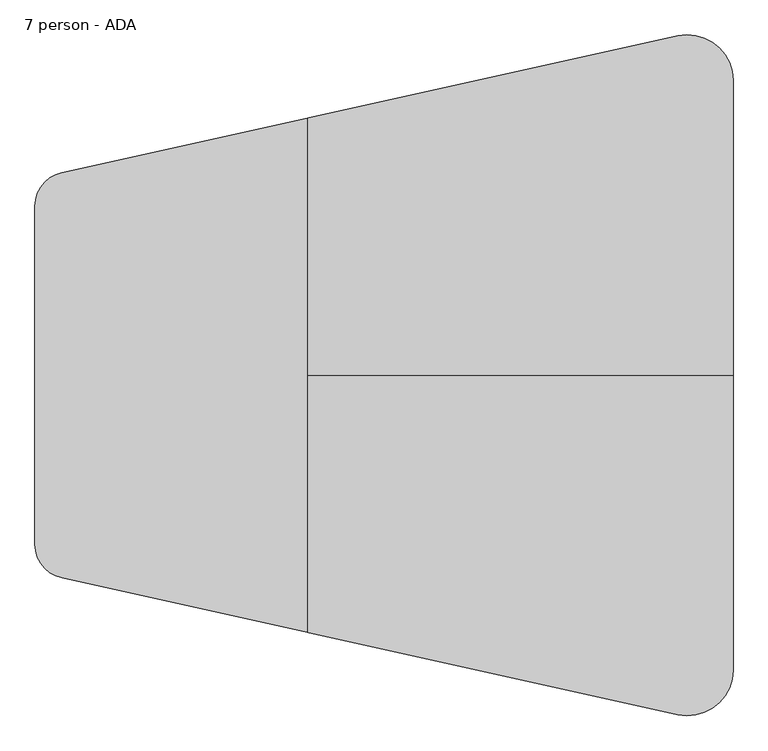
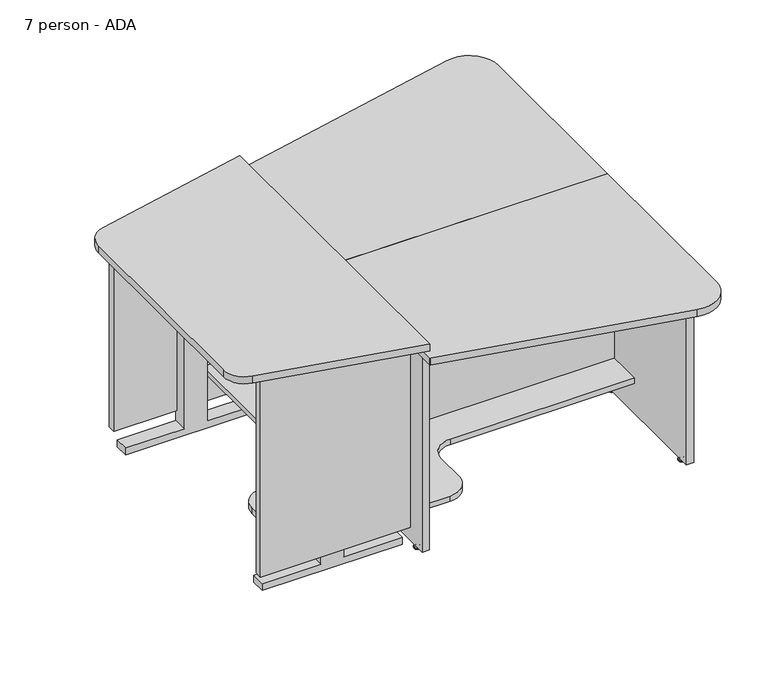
"""IFC4 building model written with IfcOpenShell, lengths in millimetres: furniture geometry, Nova Solutions - Collaboration Table - Keystone_6-7 person : 7 person - ADA."""

from ifc_helpers import new_model, si_unit, point, frame, frame_2d, origin, place, context, project, spatial, polyline, circle_curve, ellipse_curve, trimmed, segment, composite_curve, outline, extrude, source, transform, mapped, element, save
from ifc_brep_helpers import plane_surface, cylinder_surface, revolved_surface, advanced_brep


def furniture_7_person_ada_e78bc548(model_context):
    return source(origin(), model_context, "Body", "SolidModel", [
        extrude(outline(polyline([(0.0, -1436.288), (25.4, -1436.288), (25.4, -1640.238), (671.5176566, -1640.238), (671.5176566, -1720.238), (25.4, -1720.238), (25.4, -1924.188), (0.0, -1924.188), (0.0, -1436.288)])), frame((0.0, 385.9, 0.0), z_axis=(0.0, 1.0, 0.0), x_axis=(0.0, 0.0, 1.0)), (0.0, 0.0, 1.0), 50.8),
        extrude(outline(polyline([(0.0, -1436.288), (25.4, -1436.288), (25.4, -1640.238), (671.5176566, -1640.238), (671.5176566, -1720.238), (25.4, -1720.238), (25.4, -1924.188), (0.0, -1924.188), (0.0, -1436.288)])), frame((0.0, -436.7, 0.0), z_axis=(0.0, 1.0, 0.0), x_axis=(0.0, 0.0, 1.0)), (0.0, 0.0, 1.0), 50.8),
        extrude(outline(polyline([(430.1, 787.1), (430.1, 196.3), (-259.1, 196.3), (-259.1, 558.2), (-430.1, 558.2), (-430.1, 787.1), (430.1, 787.1)])), frame((-1506.438, 0.0, 0.0), z_axis=(1.0, 0.0, 0.0), x_axis=(0.0, 1.0, 0.0)), (0.0, 0.0, 1.0), 19.2),
        extrude(outline(composite_curve([segment(polyline([(-1431.938, 430.1), (-1431.938, -430.1), (-1875.1005, -430.1), (-1875.1005, -290.3)]), True, "CONTINUOUS"), segment(trimmed(circle_curve(frame_2d((-1798.9005, -290.3)), 76.2), [point((-1875.1005, -290.3))], [point((-1798.9005, -214.1))], False, "CARTESIAN"), True, "CONTINUOUS"), segment(polyline([(-1798.9005, -214.1), (-1704.438, -214.1)]), True, "CONTINUOUS"), segment(trimmed(circle_curve(frame_2d((-1704.438, -137.9)), 76.2), [point((-1704.438, -214.1))], [point((-1628.238, -137.9))], True, "CARTESIAN"), True, "CONTINUOUS"), segment(polyline([(-1628.238, -137.9), (-1628.238, 430.1), (-1431.938, 430.1)]), True, "CONTINUOUS")], self_intersect=False)), frame((0.0, 0.0, 177.1), z_axis=(0.0, 0.0, 1.0), x_axis=(1.0, 0.0, 0.0)), (0.0, 0.0, 1.0), 19.2),
        extrude(outline(polyline([(-1419.238, 455.8), (-1419.238, 430.1), (-1941.238, 430.1), (-1941.238, 455.8), (-1419.238, 455.8)])), frame((0.0, 0.0, 66.4), z_axis=(0.0, 0.0, 1.0), x_axis=(1.0, 0.0, 0.0)), (0.0, 0.0, 1.0), 720.7),
        extrude(outline(polyline([(-1419.238, -455.8), (-1941.238, -455.8), (-1941.238, -430.1), (-1419.238, -430.1), (-1419.238, -455.8)])), frame((0.0, 0.0, 66.4), z_axis=(0.0, 0.0, 1.0), x_axis=(1.0, 0.0, 0.0)), (0.0, 0.0, 1.0), 720.7),
        extrude(outline(composite_curve([segment(polyline([(-1419.238, 572.7129765), (-1419.238, -572.687814), (-1965.3405031, -451.5115625)]), True, "CONTINUOUS"), segment(trimmed(circle_curve(frame_2d((-1948.6604516, -376.3399197)), 77.0), [point((-1965.3405031, -451.5115625))], [point((-2025.6604516, -376.3415173))], False, "CARTESIAN"), True, "CONTINUOUS"), segment(polyline([(-2025.6604516, -376.3415173), (-2025.6760684, 376.3600213)]), True, "CONTINUOUS"), segment(trimmed(circle_curve(frame_2d((-1948.6760685, 376.3616189)), 77.0), [point((-2025.6760684, 376.3600213))], [point((-1965.3561197, 451.5332617))], False, "CARTESIAN"), True, "CONTINUOUS"), segment(polyline([(-1965.3561197, 451.5332617), (-1419.238, 572.7129765)]), True, "CONTINUOUS")], self_intersect=False)), frame((0.0, 0.0, 787.1), z_axis=(0.0, 0.0, 1.0), x_axis=(1.0, 0.0, 0.0)), (0.0, 0.0, 1.0), 25.7),
        extrude(outline(polyline([(736.3, -497.838), (736.3, -1392.138), (507.4, -1392.138), (507.4, -1221.138), (145.5, -1221.138), (145.5, -497.838), (736.3, -497.838)])), frame((0.0, 69.345, 0.0), z_axis=(0.0, 1.0, 0.0), x_axis=(0.0, 0.0, 1.0)), (0.0, 0.0, 1.0), 19.2),
        extrude(outline(composite_curve([segment(polyline([(-1392.138, 469.9075), (-1290.538, 469.9075)]), True, "CONTINUOUS"), segment(trimmed(circle_curve(frame_2d((-1290.538, 393.7075)), 76.2), [point((-1290.538, 469.9075))], [point((-1214.338, 393.7075))], False, "CARTESIAN"), True, "CONTINUOUS"), segment(polyline([(-1214.338, 393.7075), (-1214.338, 286.545)]), True, "CONTINUOUS"), segment(trimmed(circle_curve(frame_2d((-1138.138, 286.545)), 76.2), [point((-1214.338, 286.545))], [point((-1138.138, 210.345))], True, "CARTESIAN"), True, "CONTINUOUS"), segment(polyline([(-1138.138, 210.345), (-497.838, 210.345), (-497.838, 14.045), (-1392.138, 14.045), (-1392.138, 469.9075)]), True, "CONTINUOUS")], self_intersect=False)), frame((0.0, 0.0, 126.3), z_axis=(0.0, 0.0, 1.0), x_axis=(1.0, 0.0, 0.0)), (0.0, 0.0, 1.0), 19.2),
        advanced_brep(
        [(-1411.6656506, 474.3309375, 11.1125), (-1398.3103494, 474.3309375, 11.1125), (-1404.988, 474.3309375, 11.1125), (-1411.6656506, 474.3309375, 9.525), (-1398.3103494, 474.3309375, 9.525), (-1416.8735135, 474.3309375, 4.7748687), (-1393.1024865, 474.3309375, 4.7748687), (-1417.7346506, 474.3309375, 3.989419), (-1392.2413494, 474.3309375, 3.989419), (-1417.7346506, 474.3309375, 3.175), (-1392.2413494, 474.3309375, 3.175), (-1416.8839119, 474.3309375, 0.0), (-1393.0920881, 474.3309375, 0.0), (-1404.988, 474.3309375, 0.0)],
        [
            (0, 1, circle_curve(frame((-1404.988, 474.3309375, 11.1125), z_axis=(0.0, 0.0, 1.0), x_axis=(1.0, 0.0, 0.0)), 6.6776506)),
            (1, 2),
            (2, 0),
            (1, 0, circle_curve(frame((-1404.988, 474.3309375, 11.1125), z_axis=(0.0, 0.0, 1.0), x_axis=(1.0, 0.0, 0.0)), 6.6776506)),
            (3, 4, circle_curve(frame((-1404.988, 474.3309375, 9.525), z_axis=(0.0, 0.0, 1.0), x_axis=(1.0, 0.0, 0.0)), 6.6776506)),
            (4, 1),
            (0, 3),
            (4, 3, circle_curve(frame((-1404.988, 474.3309375, 9.525), z_axis=(0.0, 0.0, 1.0), x_axis=(1.0, 0.0, 0.0)), 6.6776506)),
            (5, 6, circle_curve(frame((-1404.988, 474.3309375, 4.7748687), z_axis=(0.0, 0.0, 1.0), x_axis=(1.0, 0.0, 0.0)), 11.8855135)),
            (6, 4, circle_curve(frame((-1392.0559373, 474.3309375, 11.1521822), z_axis=(0.0, 1.0, 0.0), x_axis=(-1.0, 0.0, 0.0)), 6.462615)),
            (3, 5, circle_curve(frame((-1417.9200627, 474.3309375, 11.1521822), z_axis=(0.0, 1.0, 0.0), x_axis=(1.0, 0.0, 0.0)), 6.462615)),
            (6, 5, circle_curve(frame((-1404.988, 474.3309375, 4.7748687), z_axis=(0.0, 0.0, 1.0), x_axis=(1.0, 0.0, 0.0)), 11.8855135)),
            (7, 8, circle_curve(frame((-1404.988, 474.3309375, 3.989419), z_axis=(0.0, 0.0, 1.0), x_axis=(1.0, 0.0, 0.0)), 12.7466506)),
            (8, 6, circle_curve(frame((-1393.2755368, 474.3309375, 3.7203591), z_axis=(0.0, -1.0, 0.0), x_axis=(-1.0, 0.0, 0.0)), 1.0686145)),
            (5, 7, circle_curve(frame((-1416.7004632, 474.3309375, 3.7203591), z_axis=(0.0, -1.0, 0.0), x_axis=(1.0, 0.0, 0.0)), 1.0686145)),
            (8, 7, circle_curve(frame((-1404.988, 474.3309375, 3.989419), z_axis=(0.0, 0.0, 1.0), x_axis=(1.0, 0.0, 0.0)), 12.7466506)),
            (9, 10, circle_curve(frame((-1404.988, 474.3309375, 3.175), z_axis=(0.0, 0.0, 1.0), x_axis=(1.0, 0.0, 0.0)), 12.7466506)),
            (10, 8),
            (7, 9),
            (10, 9, circle_curve(frame((-1404.988, 474.3309375, 3.175), z_axis=(0.0, 0.0, 1.0), x_axis=(1.0, 0.0, 0.0)), 12.7466506)),
            (11, 12, circle_curve(frame((-1404.988, 474.3309375, 0.0), z_axis=(0.0, 0.0, 1.0), x_axis=(1.0, 0.0, 0.0)), 11.8959119)),
            (12, 10),
            (9, 11),
            (12, 11, circle_curve(frame((-1404.988, 474.3309375, 0.0), z_axis=(0.0, 0.0, 1.0), x_axis=(1.0, 0.0, 0.0)), 11.8959119)),
            (13, 12),
            (11, 13),
        ],
        [
            plane_surface(frame((-1404.988, 474.3309375, 11.1125), z_axis=(0.0, 0.0, 1.0), x_axis=(1.0, 0.0, 0.0))),
            cylinder_surface(frame((-1404.988, 474.3309375, 43.2095994), z_axis=(0.0, 0.0, -1.0), x_axis=(1.0, 0.0, 0.0)), 6.6776506),
            revolved_surface(trimmed(ellipse_curve(frame((-1392.0559373, 474.3309375, 11.1521822), z_axis=(0.0, -1.0, 0.0), x_axis=(-1.0, 0.0, 0.0)), 6.462615, 6.462615), [point((-1398.3103494, 474.3309375, 9.525))], [point((-1393.1024865, 474.3309375, 4.7748687))], True, "CARTESIAN"), (-1404.988, 474.3309375, 43.2095994), (0.0, 0.0, -1.0)),
            revolved_surface(trimmed(ellipse_curve(frame((-1393.2755368, 474.3309375, 3.7203591), z_axis=(0.0, 1.0, 0.0), x_axis=(-1.0, 0.0, 0.0)), 1.0686145, 1.0686145), [point((-1393.1024865, 474.3309375, 4.7748687))], [point((-1392.2413494, 474.3309375, 3.989419))], True, "CARTESIAN"), (-1404.988, 474.3309375, 43.2095994), (0.0, 0.0, -1.0)),
            cylinder_surface(frame((-1404.988, 474.3309375, 43.2095994), z_axis=(0.0, 0.0, -1.0), x_axis=(1.0, 0.0, 0.0)), 12.7466506),
            revolved_surface(polyline([(-1392.2413494, 474.3309375, 3.175), (-1393.0920881, 474.3309375, 0.0)]), (-1404.988, 474.3309375, 43.2095994), (0.0, 0.0, -1.0)),
            plane_surface(frame((-1404.988, 474.3309375, 0.0), z_axis=(0.0, 0.0, -1.0), x_axis=(1.0, 0.0, 0.0))),
        ],
        [
            (0, [[1, 2, 3]]),
            (0, [[4, -3, -2]]),
            (1, [[5, 6, -1, 7]]),
            (1, [[8, -7, -4, -6]]),
            (2, [[9, 10, -5, 11]]),
            (2, [[12, -11, -8, -10]]),
            (3, [[13, 14, -9, 15]]),
            (3, [[16, -15, -12, -14]]),
            (4, [[17, 18, -13, 19]]),
            (4, [[20, -19, -16, -18]]),
            (5, [[21, 22, -17, 23]]),
            (5, [[24, -23, -20, -22]]),
            (6, [[25, -21, 26]]),
            (6, [[-26, -24, -25]]),
        ],
    ),
        advanced_brep(
        [(-1411.6656506, 50.3590625, 11.1125), (-1398.3103494, 50.3590625, 11.1125), (-1404.988, 50.3590625, 11.1125), (-1411.6656506, 50.3590625, 9.525), (-1398.3103494, 50.3590625, 9.525), (-1416.8735135, 50.3590625, 4.7748687), (-1393.1024865, 50.3590625, 4.7748687), (-1417.7346506, 50.3590625, 3.989419), (-1392.2413494, 50.3590625, 3.989419), (-1417.7346506, 50.3590625, 3.175), (-1392.2413494, 50.3590625, 3.175), (-1416.8839119, 50.3590625, 0.0), (-1393.0920881, 50.3590625, 0.0), (-1404.988, 50.3590625, 0.0)],
        [
            (0, 1, circle_curve(frame((-1404.988, 50.3590625, 11.1125), z_axis=(0.0, 0.0, 1.0), x_axis=(1.0, 0.0, 0.0)), 6.6776506)),
            (1, 2),
            (2, 0),
            (1, 0, circle_curve(frame((-1404.988, 50.3590625, 11.1125), z_axis=(0.0, 0.0, 1.0), x_axis=(1.0, 0.0, 0.0)), 6.6776506)),
            (3, 4, circle_curve(frame((-1404.988, 50.3590625, 9.525), z_axis=(0.0, 0.0, 1.0), x_axis=(1.0, 0.0, 0.0)), 6.6776506)),
            (4, 1),
            (0, 3),
            (4, 3, circle_curve(frame((-1404.988, 50.3590625, 9.525), z_axis=(0.0, 0.0, 1.0), x_axis=(1.0, 0.0, 0.0)), 6.6776506)),
            (5, 6, circle_curve(frame((-1404.988, 50.3590625, 4.7748687), z_axis=(0.0, 0.0, 1.0), x_axis=(1.0, 0.0, 0.0)), 11.8855135)),
            (6, 4, circle_curve(frame((-1392.0559373, 50.3590625, 11.1521822), z_axis=(0.0, 1.0, 0.0), x_axis=(-1.0, 0.0, 0.0)), 6.462615)),
            (3, 5, circle_curve(frame((-1417.9200627, 50.3590625, 11.1521822), z_axis=(0.0, 1.0, 0.0), x_axis=(1.0, 0.0, 0.0)), 6.462615)),
            (6, 5, circle_curve(frame((-1404.988, 50.3590625, 4.7748687), z_axis=(0.0, 0.0, 1.0), x_axis=(1.0, 0.0, 0.0)), 11.8855135)),
            (7, 8, circle_curve(frame((-1404.988, 50.3590625, 3.989419), z_axis=(0.0, 0.0, 1.0), x_axis=(1.0, 0.0, 0.0)), 12.7466506)),
            (8, 6, circle_curve(frame((-1393.2755368, 50.3590625, 3.7203591), z_axis=(0.0, -1.0, 0.0), x_axis=(-1.0, 0.0, 0.0)), 1.0686145)),
            (5, 7, circle_curve(frame((-1416.7004632, 50.3590625, 3.7203591), z_axis=(0.0, -1.0, 0.0), x_axis=(1.0, 0.0, 0.0)), 1.0686145)),
            (8, 7, circle_curve(frame((-1404.988, 50.3590625, 3.989419), z_axis=(0.0, 0.0, 1.0), x_axis=(1.0, 0.0, 0.0)), 12.7466506)),
            (9, 10, circle_curve(frame((-1404.988, 50.3590625, 3.175), z_axis=(0.0, 0.0, 1.0), x_axis=(1.0, 0.0, 0.0)), 12.7466506)),
            (10, 8),
            (7, 9),
            (10, 9, circle_curve(frame((-1404.988, 50.3590625, 3.175), z_axis=(0.0, 0.0, 1.0), x_axis=(1.0, 0.0, 0.0)), 12.7466506)),
            (11, 12, circle_curve(frame((-1404.988, 50.3590625, 0.0), z_axis=(0.0, 0.0, 1.0), x_axis=(1.0, 0.0, 0.0)), 11.8959119)),
            (12, 10),
            (9, 11),
            (12, 11, circle_curve(frame((-1404.988, 50.3590625, 0.0), z_axis=(0.0, 0.0, 1.0), x_axis=(1.0, 0.0, 0.0)), 11.8959119)),
            (13, 12),
            (11, 13),
        ],
        [
            plane_surface(frame((-1404.988, 50.3590625, 11.1125), z_axis=(0.0, 0.0, 1.0), x_axis=(1.0, 0.0, 0.0))),
            cylinder_surface(frame((-1404.988, 50.3590625, 43.2095994), z_axis=(0.0, 0.0, -1.0), x_axis=(1.0, 0.0, 0.0)), 6.6776506),
            revolved_surface(trimmed(ellipse_curve(frame((-1392.0559373, 50.3590625, 11.1521822), z_axis=(0.0, -1.0, 0.0), x_axis=(-1.0, 0.0, 0.0)), 6.462615, 6.462615), [point((-1398.3103494, 50.3590625, 9.525))], [point((-1393.1024865, 50.3590625, 4.7748687))], True, "CARTESIAN"), (-1404.988, 50.3590625, 43.2095994), (0.0, 0.0, -1.0)),
            revolved_surface(trimmed(ellipse_curve(frame((-1393.2755368, 50.3590625, 3.7203591), z_axis=(0.0, 1.0, 0.0), x_axis=(-1.0, 0.0, 0.0)), 1.0686145, 1.0686145), [point((-1393.1024865, 50.3590625, 4.7748687))], [point((-1392.2413494, 50.3590625, 3.989419))], True, "CARTESIAN"), (-1404.988, 50.3590625, 43.2095994), (0.0, 0.0, -1.0)),
            cylinder_surface(frame((-1404.988, 50.3590625, 43.2095994), z_axis=(0.0, 0.0, -1.0), x_axis=(1.0, 0.0, 0.0)), 12.7466506),
            revolved_surface(polyline([(-1392.2413494, 50.3590625, 3.175), (-1393.0920881, 50.3590625, 0.0)]), (-1404.988, 50.3590625, 43.2095994), (0.0, 0.0, -1.0)),
            plane_surface(frame((-1404.988, 50.3590625, 0.0), z_axis=(0.0, 0.0, -1.0), x_axis=(1.0, 0.0, 0.0))),
        ],
        [
            (0, [[1, 2, 3]]),
            (0, [[4, -3, -2]]),
            (1, [[5, 6, -1, 7]]),
            (1, [[8, -7, -4, -6]]),
            (2, [[9, 10, -5, 11]]),
            (2, [[12, -11, -8, -10]]),
            (3, [[13, 14, -9, 15]]),
            (3, [[16, -15, -12, -14]]),
            (4, [[17, 18, -13, 19]]),
            (4, [[20, -19, -16, -18]]),
            (5, [[21, 22, -17, 23]]),
            (5, [[24, -23, -20, -22]]),
            (6, [[25, -21, 26]]),
            (6, [[-26, -24, -25]]),
        ],
    ),
        extrude(outline(polyline([(-1417.838, 1.345), (-1417.838, 523.345), (-1392.138, 523.345), (-1392.138, 1.345), (-1417.838, 1.345)])), frame((0.0, 0.0, 15.6), z_axis=(0.0, 0.0, 1.0), x_axis=(1.0, 0.0, 0.0)), (0.0, 0.0, 1.0), 720.7),
        advanced_brep(
        [(-478.3103494, 474.3309375, 11.1125), (-484.988, 474.3309375, 11.1125), (-491.6656506, 474.3309375, 11.1125), (-478.3103494, 474.3309375, 9.525), (-491.6656506, 474.3309375, 9.525), (-473.1024865, 474.3309375, 4.7748687), (-496.8735135, 474.3309375, 4.7748687), (-472.2413494, 474.3309375, 3.989419), (-497.7346506, 474.3309375, 3.989419), (-472.2413494, 474.3309375, 3.175), (-497.7346506, 474.3309375, 3.175), (-473.0920881, 474.3309375, 0.0), (-496.8839119, 474.3309375, 0.0), (-484.988, 474.3309375, 0.0)],
        [
            (0, 1),
            (1, 2),
            (2, 0, circle_curve(frame((-484.988, 474.3309375, 11.1125), z_axis=(0.0, 0.0, 1.0), x_axis=(-1.0, 0.0, 0.0)), 6.6776506)),
            (0, 2, circle_curve(frame((-484.988, 474.3309375, 11.1125), z_axis=(0.0, 0.0, 1.0), x_axis=(-1.0, 0.0, 0.0)), 6.6776506)),
            (3, 0),
            (2, 4),
            (4, 3, circle_curve(frame((-484.988, 474.3309375, 9.525), z_axis=(0.0, 0.0, 1.0), x_axis=(-1.0, 0.0, 0.0)), 6.6776506)),
            (3, 4, circle_curve(frame((-484.988, 474.3309375, 9.525), z_axis=(0.0, 0.0, 1.0), x_axis=(-1.0, 0.0, 0.0)), 6.6776506)),
            (5, 3, circle_curve(frame((-472.0559373, 474.3309375, 11.1521822), z_axis=(0.0, 1.0, 0.0), x_axis=(-1.0, 0.0, 0.0)), 6.462615)),
            (4, 6, circle_curve(frame((-497.9200627, 474.3309375, 11.1521822), z_axis=(0.0, 1.0, 0.0), x_axis=(1.0, 0.0, 0.0)), 6.462615)),
            (6, 5, circle_curve(frame((-484.988, 474.3309375, 4.7748687), z_axis=(0.0, 0.0, 1.0), x_axis=(-1.0, 0.0, 0.0)), 11.8855135)),
            (5, 6, circle_curve(frame((-484.988, 474.3309375, 4.7748687), z_axis=(0.0, 0.0, 1.0), x_axis=(-1.0, 0.0, 0.0)), 11.8855135)),
            (7, 5, circle_curve(frame((-473.2755368, 474.3309375, 3.7203591), z_axis=(0.0, -1.0, 0.0), x_axis=(-1.0, 0.0, 0.0)), 1.0686145)),
            (6, 8, circle_curve(frame((-496.7004632, 474.3309375, 3.7203591), z_axis=(0.0, -1.0, 0.0), x_axis=(1.0, 0.0, 0.0)), 1.0686145)),
            (8, 7, circle_curve(frame((-484.988, 474.3309375, 3.989419), z_axis=(0.0, 0.0, 1.0), x_axis=(-1.0, 0.0, 0.0)), 12.7466506)),
            (7, 8, circle_curve(frame((-484.988, 474.3309375, 3.989419), z_axis=(0.0, 0.0, 1.0), x_axis=(-1.0, 0.0, 0.0)), 12.7466506)),
            (9, 7),
            (8, 10),
            (10, 9, circle_curve(frame((-484.988, 474.3309375, 3.175), z_axis=(0.0, 0.0, 1.0), x_axis=(-1.0, 0.0, 0.0)), 12.7466506)),
            (9, 10, circle_curve(frame((-484.988, 474.3309375, 3.175), z_axis=(0.0, 0.0, 1.0), x_axis=(-1.0, 0.0, 0.0)), 12.7466506)),
            (11, 9),
            (10, 12),
            (12, 11, circle_curve(frame((-484.988, 474.3309375, 0.0), z_axis=(0.0, 0.0, 1.0), x_axis=(-1.0, 0.0, 0.0)), 11.8959119)),
            (11, 12, circle_curve(frame((-484.988, 474.3309375, 0.0), z_axis=(0.0, 0.0, 1.0), x_axis=(-1.0, 0.0, 0.0)), 11.8959119)),
            (13, 11),
            (12, 13),
        ],
        [
            plane_surface(frame((-484.988, 474.3309375, 11.1125), z_axis=(0.0, 0.0, 1.0), x_axis=(-1.0, 0.0, 0.0))),
            cylinder_surface(frame((-484.988, 474.3309375, 43.2095994), z_axis=(0.0, 0.0, -1.0), x_axis=(-1.0, 0.0, 0.0)), 6.6776506),
            revolved_surface(trimmed(ellipse_curve(frame((-497.9200627, 474.3309375, 11.1521822), z_axis=(0.0, 1.0, 0.0), x_axis=(1.0, 0.0, 0.0)), 6.462615, 6.462615), [point((-491.6656506, 474.3309375, 9.525))], [point((-496.8735135, 474.3309375, 4.7748687))], True, "CARTESIAN"), (-484.988, 474.3309375, 43.2095994), (0.0, 0.0, -1.0)),
            revolved_surface(trimmed(ellipse_curve(frame((-496.7004632, 474.3309375, 3.7203591), z_axis=(0.0, -1.0, 0.0), x_axis=(1.0, 0.0, 0.0)), 1.0686145, 1.0686145), [point((-496.8735135, 474.3309375, 4.7748687))], [point((-497.7346506, 474.3309375, 3.989419))], True, "CARTESIAN"), (-484.988, 474.3309375, 43.2095994), (0.0, 0.0, -1.0)),
            cylinder_surface(frame((-484.988, 474.3309375, 43.2095994), z_axis=(0.0, 0.0, -1.0), x_axis=(-1.0, 0.0, 0.0)), 12.7466506),
            revolved_surface(polyline([(-497.7346506, 474.3309375, 3.175), (-496.8839119, 474.3309375, 0.0)]), (-484.988, 474.3309375, 43.2095994), (0.0, 0.0, -1.0)),
            plane_surface(frame((-484.988, 474.3309375, 0.0), z_axis=(0.0, 0.0, -1.0), x_axis=(-1.0, 0.0, 0.0))),
        ],
        [
            (0, [[1, 2, 3]]),
            (0, [[-2, -1, 4]]),
            (1, [[5, -3, 6, 7]]),
            (1, [[-6, -4, -5, 8]]),
            (2, [[9, -7, 10, 11]]),
            (2, [[-10, -8, -9, 12]]),
            (3, [[13, -11, 14, 15]]),
            (3, [[-14, -12, -13, 16]]),
            (4, [[17, -15, 18, 19]]),
            (4, [[-18, -16, -17, 20]]),
            (5, [[21, -19, 22, 23]]),
            (5, [[-22, -20, -21, 24]]),
            (6, [[25, -23, 26]]),
            (6, [[-26, -24, -25]]),
        ],
    ),
        advanced_brep(
        [(-478.3103494, 50.3590625, 11.1125), (-484.988, 50.3590625, 11.1125), (-491.6656506, 50.3590625, 11.1125), (-478.3103494, 50.3590625, 9.525), (-491.6656506, 50.3590625, 9.525), (-473.1024865, 50.3590625, 4.7748687), (-496.8735135, 50.3590625, 4.7748687), (-472.2413494, 50.3590625, 3.989419), (-497.7346506, 50.3590625, 3.989419), (-472.2413494, 50.3590625, 3.175), (-497.7346506, 50.3590625, 3.175), (-473.0920881, 50.3590625, 0.0), (-496.8839119, 50.3590625, 0.0), (-484.988, 50.3590625, 0.0)],
        [
            (0, 1),
            (1, 2),
            (2, 0, circle_curve(frame((-484.988, 50.3590625, 11.1125), z_axis=(0.0, 0.0, 1.0), x_axis=(-1.0, 0.0, 0.0)), 6.6776506)),
            (0, 2, circle_curve(frame((-484.988, 50.3590625, 11.1125), z_axis=(0.0, 0.0, 1.0), x_axis=(-1.0, 0.0, 0.0)), 6.6776506)),
            (3, 0),
            (2, 4),
            (4, 3, circle_curve(frame((-484.988, 50.3590625, 9.525), z_axis=(0.0, 0.0, 1.0), x_axis=(-1.0, 0.0, 0.0)), 6.6776506)),
            (3, 4, circle_curve(frame((-484.988, 50.3590625, 9.525), z_axis=(0.0, 0.0, 1.0), x_axis=(-1.0, 0.0, 0.0)), 6.6776506)),
            (5, 3, circle_curve(frame((-472.0559373, 50.3590625, 11.1521822), z_axis=(0.0, 1.0, 0.0), x_axis=(-1.0, 0.0, 0.0)), 6.462615)),
            (4, 6, circle_curve(frame((-497.9200627, 50.3590625, 11.1521822), z_axis=(0.0, 1.0, 0.0), x_axis=(1.0, 0.0, 0.0)), 6.462615)),
            (6, 5, circle_curve(frame((-484.988, 50.3590625, 4.7748687), z_axis=(0.0, 0.0, 1.0), x_axis=(-1.0, 0.0, 0.0)), 11.8855135)),
            (5, 6, circle_curve(frame((-484.988, 50.3590625, 4.7748687), z_axis=(0.0, 0.0, 1.0), x_axis=(-1.0, 0.0, 0.0)), 11.8855135)),
            (7, 5, circle_curve(frame((-473.2755368, 50.3590625, 3.7203591), z_axis=(0.0, -1.0, 0.0), x_axis=(-1.0, 0.0, 0.0)), 1.0686145)),
            (6, 8, circle_curve(frame((-496.7004632, 50.3590625, 3.7203591), z_axis=(0.0, -1.0, 0.0), x_axis=(1.0, 0.0, 0.0)), 1.0686145)),
            (8, 7, circle_curve(frame((-484.988, 50.3590625, 3.989419), z_axis=(0.0, 0.0, 1.0), x_axis=(-1.0, 0.0, 0.0)), 12.7466506)),
            (7, 8, circle_curve(frame((-484.988, 50.3590625, 3.989419), z_axis=(0.0, 0.0, 1.0), x_axis=(-1.0, 0.0, 0.0)), 12.7466506)),
            (9, 7),
            (8, 10),
            (10, 9, circle_curve(frame((-484.988, 50.3590625, 3.175), z_axis=(0.0, 0.0, 1.0), x_axis=(-1.0, 0.0, 0.0)), 12.7466506)),
            (9, 10, circle_curve(frame((-484.988, 50.3590625, 3.175), z_axis=(0.0, 0.0, 1.0), x_axis=(-1.0, 0.0, 0.0)), 12.7466506)),
            (11, 9),
            (10, 12),
            (12, 11, circle_curve(frame((-484.988, 50.3590625, 0.0), z_axis=(0.0, 0.0, 1.0), x_axis=(-1.0, 0.0, 0.0)), 11.8959119)),
            (11, 12, circle_curve(frame((-484.988, 50.3590625, 0.0), z_axis=(0.0, 0.0, 1.0), x_axis=(-1.0, 0.0, 0.0)), 11.8959119)),
            (13, 11),
            (12, 13),
        ],
        [
            plane_surface(frame((-484.988, 50.3590625, 11.1125), z_axis=(0.0, 0.0, 1.0), x_axis=(-1.0, 0.0, 0.0))),
            cylinder_surface(frame((-484.988, 50.3590625, 43.2095994), z_axis=(0.0, 0.0, -1.0), x_axis=(-1.0, 0.0, 0.0)), 6.6776506),
            revolved_surface(trimmed(ellipse_curve(frame((-497.9200627, 50.3590625, 11.1521822), z_axis=(0.0, 1.0, 0.0), x_axis=(1.0, 0.0, 0.0)), 6.462615, 6.462615), [point((-491.6656506, 50.3590625, 9.525))], [point((-496.8735135, 50.3590625, 4.7748687))], True, "CARTESIAN"), (-484.988, 50.3590625, 43.2095994), (0.0, 0.0, -1.0)),
            revolved_surface(trimmed(ellipse_curve(frame((-496.7004632, 50.3590625, 3.7203591), z_axis=(0.0, -1.0, 0.0), x_axis=(1.0, 0.0, 0.0)), 1.0686145, 1.0686145), [point((-496.8735135, 50.3590625, 4.7748687))], [point((-497.7346506, 50.3590625, 3.989419))], True, "CARTESIAN"), (-484.988, 50.3590625, 43.2095994), (0.0, 0.0, -1.0)),
            cylinder_surface(frame((-484.988, 50.3590625, 43.2095994), z_axis=(0.0, 0.0, -1.0), x_axis=(-1.0, 0.0, 0.0)), 12.7466506),
            revolved_surface(polyline([(-497.7346506, 50.3590625, 3.175), (-496.8839119, 50.3590625, 0.0)]), (-484.988, 50.3590625, 43.2095994), (0.0, 0.0, -1.0)),
            plane_surface(frame((-484.988, 50.3590625, 0.0), z_axis=(0.0, 0.0, -1.0), x_axis=(-1.0, 0.0, 0.0))),
        ],
        [
            (0, [[1, 2, 3]]),
            (0, [[-2, -1, 4]]),
            (1, [[5, -3, 6, 7]]),
            (1, [[-6, -4, -5, 8]]),
            (2, [[9, -7, 10, 11]]),
            (2, [[-10, -8, -9, 12]]),
            (3, [[13, -11, 14, 15]]),
            (3, [[-14, -12, -13, 16]]),
            (4, [[17, -15, 18, 19]]),
            (4, [[-18, -16, -17, 20]]),
            (5, [[21, -19, 22, 23]]),
            (5, [[-22, -20, -21, 24]]),
            (6, [[25, -23, 26]]),
            (6, [[-26, -24, -25]]),
        ],
    ),
        extrude(outline(polyline([(-472.138, 1.345), (-497.838, 1.345), (-497.838, 523.345), (-472.138, 523.345), (-472.138, 1.345)])), frame((0.0, 0.0, 15.6), z_axis=(0.0, 0.0, 1.0), x_axis=(1.0, 0.0, 0.0)), (0.0, 0.0, 1.0), 720.7),
        extrude(outline(composite_curve([segment(polyline([(-1415.9176208, 573.4480404), (-594.2066208, 755.6169834)]), True, "CONTINUOUS"), segment(trimmed(circle_curve(frame_2d((-572.238, 656.5229386)), 101.5), [point((-594.2066208, 755.6169834))], [point((-470.738, 656.5229386))], False, "CARTESIAN"), True, "CONTINUOUS"), segment(polyline([(-470.738, 656.5229386), (-470.738, 0.0), (-1419.238, 0.0), (-1419.238, 572.6531131)]), True, "CONTINUOUS"), segment(trimmed(circle_curve(frame_2d((-1393.949, 474.3539957)), 101.5), [point((-1419.238, 572.6531131))], [point((-1415.9176208, 573.4480404))], False, "CARTESIAN"), True, "CONTINUOUS")], self_intersect=False)), frame((0.0, 0.0, 736.3), z_axis=(0.0, 0.0, 1.0), x_axis=(1.0, 0.0, 0.0)), (0.0, 0.0, 1.0), 25.7),
        extrude(outline(polyline([(145.5, -497.838), (736.3, -497.838), (736.3, -1392.138), (507.4, -1392.138), (507.4, -1221.138), (145.5, -1221.138), (145.5, -497.838)])), frame((0.0, -88.545, 0.0), z_axis=(0.0, 1.0, 0.0), x_axis=(0.0, 0.0, 1.0)), (0.0, 0.0, 1.0), 19.2),
        extrude(outline(composite_curve([segment(polyline([(-1392.138, -469.9075), (-1392.138, -14.045), (-497.838, -14.045), (-497.838, -210.345), (-1138.138, -210.345)]), True, "CONTINUOUS"), segment(trimmed(circle_curve(frame_2d((-1138.138, -286.545)), 76.2), [point((-1138.138, -210.345))], [point((-1214.338, -286.545))], True, "CARTESIAN"), True, "CONTINUOUS"), segment(polyline([(-1214.338, -286.545), (-1214.338, -393.7075)]), True, "CONTINUOUS"), segment(trimmed(circle_curve(frame_2d((-1290.538, -393.7075)), 76.2), [point((-1214.338, -393.7075))], [point((-1290.538, -469.9075))], False, "CARTESIAN"), True, "CONTINUOUS"), segment(polyline([(-1290.538, -469.9075), (-1392.138, -469.9075)]), True, "CONTINUOUS")], self_intersect=False)), frame((0.0, 0.0, 126.3), z_axis=(0.0, 0.0, 1.0), x_axis=(1.0, 0.0, 0.0)), (0.0, 0.0, 1.0), 19.2),
        advanced_brep(
        [(-1411.6656506, -474.3309375, 11.1125), (-1404.988, -474.3309375, 11.1125), (-1398.3103494, -474.3309375, 11.1125), (-1411.6656506, -474.3309375, 9.525), (-1398.3103494, -474.3309375, 9.525), (-1416.8735135, -474.3309375, 4.7748687), (-1393.1024865, -474.3309375, 4.7748687), (-1417.7346506, -474.3309375, 3.989419), (-1392.2413494, -474.3309375, 3.989419), (-1417.7346506, -474.3309375, 3.175), (-1392.2413494, -474.3309375, 3.175), (-1416.8839119, -474.3309375, 0.0), (-1393.0920881, -474.3309375, 0.0), (-1404.988, -474.3309375, 0.0)],
        [
            (0, 1),
            (1, 2),
            (2, 0, circle_curve(frame((-1404.988, -474.3309375, 11.1125), z_axis=(0.0, 0.0, 1.0), x_axis=(1.0, 0.0, 0.0)), 6.6776506)),
            (0, 2, circle_curve(frame((-1404.988, -474.3309375, 11.1125), z_axis=(0.0, 0.0, 1.0), x_axis=(1.0, 0.0, 0.0)), 6.6776506)),
            (3, 0),
            (2, 4),
            (4, 3, circle_curve(frame((-1404.988, -474.3309375, 9.525), z_axis=(0.0, 0.0, 1.0), x_axis=(1.0, 0.0, 0.0)), 6.6776506)),
            (3, 4, circle_curve(frame((-1404.988, -474.3309375, 9.525), z_axis=(0.0, 0.0, 1.0), x_axis=(1.0, 0.0, 0.0)), 6.6776506)),
            (5, 3, circle_curve(frame((-1417.9200627, -474.3309375, 11.1521822), z_axis=(0.0, -1.0, 0.0), x_axis=(1.0, 0.0, 0.0)), 6.462615)),
            (4, 6, circle_curve(frame((-1392.0559373, -474.3309375, 11.1521822), z_axis=(0.0, -1.0, 0.0), x_axis=(-1.0, 0.0, 0.0)), 6.462615)),
            (6, 5, circle_curve(frame((-1404.988, -474.3309375, 4.7748687), z_axis=(0.0, 0.0, 1.0), x_axis=(1.0, 0.0, 0.0)), 11.8855135)),
            (5, 6, circle_curve(frame((-1404.988, -474.3309375, 4.7748687), z_axis=(0.0, 0.0, 1.0), x_axis=(1.0, 0.0, 0.0)), 11.8855135)),
            (7, 5, circle_curve(frame((-1416.7004632, -474.3309375, 3.7203591), z_axis=(0.0, 1.0, 0.0), x_axis=(1.0, 0.0, 0.0)), 1.0686145)),
            (6, 8, circle_curve(frame((-1393.2755368, -474.3309375, 3.7203591), z_axis=(0.0, 1.0, 0.0), x_axis=(-1.0, 0.0, 0.0)), 1.0686145)),
            (8, 7, circle_curve(frame((-1404.988, -474.3309375, 3.989419), z_axis=(0.0, 0.0, 1.0), x_axis=(1.0, 0.0, 0.0)), 12.7466506)),
            (7, 8, circle_curve(frame((-1404.988, -474.3309375, 3.989419), z_axis=(0.0, 0.0, 1.0), x_axis=(1.0, 0.0, 0.0)), 12.7466506)),
            (9, 7),
            (8, 10),
            (10, 9, circle_curve(frame((-1404.988, -474.3309375, 3.175), z_axis=(0.0, 0.0, 1.0), x_axis=(1.0, 0.0, 0.0)), 12.7466506)),
            (9, 10, circle_curve(frame((-1404.988, -474.3309375, 3.175), z_axis=(0.0, 0.0, 1.0), x_axis=(1.0, 0.0, 0.0)), 12.7466506)),
            (11, 9),
            (10, 12),
            (12, 11, circle_curve(frame((-1404.988, -474.3309375, 0.0), z_axis=(0.0, 0.0, 1.0), x_axis=(1.0, 0.0, 0.0)), 11.8959119)),
            (11, 12, circle_curve(frame((-1404.988, -474.3309375, 0.0), z_axis=(0.0, 0.0, 1.0), x_axis=(1.0, 0.0, 0.0)), 11.8959119)),
            (13, 11),
            (12, 13),
        ],
        [
            plane_surface(frame((-1404.988, -474.3309375, 11.1125), z_axis=(0.0, 0.0, 1.0), x_axis=(1.0, 0.0, 0.0))),
            cylinder_surface(frame((-1404.988, -474.3309375, 43.2095994), z_axis=(0.0, 0.0, -1.0), x_axis=(1.0, 0.0, 0.0)), 6.6776506),
            revolved_surface(trimmed(ellipse_curve(frame((-1392.0559373, -474.3309375, 11.1521822), z_axis=(0.0, -1.0, 0.0), x_axis=(-1.0, 0.0, 0.0)), 6.462615, 6.462615), [point((-1398.3103494, -474.3309375, 9.525))], [point((-1393.1024865, -474.3309375, 4.7748687))], True, "CARTESIAN"), (-1404.988, -474.3309375, 43.2095994), (0.0, 0.0, -1.0)),
            revolved_surface(trimmed(ellipse_curve(frame((-1393.2755368, -474.3309375, 3.7203591), z_axis=(0.0, 1.0, 0.0), x_axis=(-1.0, 0.0, 0.0)), 1.0686145, 1.0686145), [point((-1393.1024865, -474.3309375, 4.7748687))], [point((-1392.2413494, -474.3309375, 3.989419))], True, "CARTESIAN"), (-1404.988, -474.3309375, 43.2095994), (0.0, 0.0, -1.0)),
            cylinder_surface(frame((-1404.988, -474.3309375, 43.2095994), z_axis=(0.0, 0.0, -1.0), x_axis=(1.0, 0.0, 0.0)), 12.7466506),
            revolved_surface(polyline([(-1392.2413494, -474.3309375, 3.175), (-1393.0920881, -474.3309375, 0.0)]), (-1404.988, -474.3309375, 43.2095994), (0.0, 0.0, -1.0)),
            plane_surface(frame((-1404.988, -474.3309375, 0.0), z_axis=(0.0, 0.0, -1.0), x_axis=(1.0, 0.0, 0.0))),
        ],
        [
            (0, [[1, 2, 3]]),
            (0, [[-2, -1, 4]]),
            (1, [[5, -3, 6, 7]]),
            (1, [[-6, -4, -5, 8]]),
            (2, [[9, -7, 10, 11]]),
            (2, [[-10, -8, -9, 12]]),
            (3, [[13, -11, 14, 15]]),
            (3, [[-14, -12, -13, 16]]),
            (4, [[17, -15, 18, 19]]),
            (4, [[-18, -16, -17, 20]]),
            (5, [[21, -19, 22, 23]]),
            (5, [[-22, -20, -21, 24]]),
            (6, [[25, -23, 26]]),
            (6, [[-26, -24, -25]]),
        ],
    ),
        advanced_brep(
        [(-1411.6656506, -50.3590625, 11.1125), (-1404.988, -50.3590625, 11.1125), (-1398.3103494, -50.3590625, 11.1125), (-1411.6656506, -50.3590625, 9.525), (-1398.3103494, -50.3590625, 9.525), (-1416.8735135, -50.3590625, 4.7748687), (-1393.1024865, -50.3590625, 4.7748687), (-1417.7346506, -50.3590625, 3.989419), (-1392.2413494, -50.3590625, 3.989419), (-1417.7346506, -50.3590625, 3.175), (-1392.2413494, -50.3590625, 3.175), (-1416.8839119, -50.3590625, 0.0), (-1393.0920881, -50.3590625, 0.0), (-1404.988, -50.3590625, 0.0)],
        [
            (0, 1),
            (1, 2),
            (2, 0, circle_curve(frame((-1404.988, -50.3590625, 11.1125), z_axis=(0.0, 0.0, 1.0), x_axis=(1.0, 0.0, 0.0)), 6.6776506)),
            (0, 2, circle_curve(frame((-1404.988, -50.3590625, 11.1125), z_axis=(0.0, 0.0, 1.0), x_axis=(1.0, 0.0, 0.0)), 6.6776506)),
            (3, 0),
            (2, 4),
            (4, 3, circle_curve(frame((-1404.988, -50.3590625, 9.525), z_axis=(0.0, 0.0, 1.0), x_axis=(1.0, 0.0, 0.0)), 6.6776506)),
            (3, 4, circle_curve(frame((-1404.988, -50.3590625, 9.525), z_axis=(0.0, 0.0, 1.0), x_axis=(1.0, 0.0, 0.0)), 6.6776506)),
            (5, 3, circle_curve(frame((-1417.9200627, -50.3590625, 11.1521822), z_axis=(0.0, -1.0, 0.0), x_axis=(1.0, 0.0, 0.0)), 6.462615)),
            (4, 6, circle_curve(frame((-1392.0559373, -50.3590625, 11.1521822), z_axis=(0.0, -1.0, 0.0), x_axis=(-1.0, 0.0, 0.0)), 6.462615)),
            (6, 5, circle_curve(frame((-1404.988, -50.3590625, 4.7748687), z_axis=(0.0, 0.0, 1.0), x_axis=(1.0, 0.0, 0.0)), 11.8855135)),
            (5, 6, circle_curve(frame((-1404.988, -50.3590625, 4.7748687), z_axis=(0.0, 0.0, 1.0), x_axis=(1.0, 0.0, 0.0)), 11.8855135)),
            (7, 5, circle_curve(frame((-1416.7004632, -50.3590625, 3.7203591), z_axis=(0.0, 1.0, 0.0), x_axis=(1.0, 0.0, 0.0)), 1.0686145)),
            (6, 8, circle_curve(frame((-1393.2755368, -50.3590625, 3.7203591), z_axis=(0.0, 1.0, 0.0), x_axis=(-1.0, 0.0, 0.0)), 1.0686145)),
            (8, 7, circle_curve(frame((-1404.988, -50.3590625, 3.989419), z_axis=(0.0, 0.0, 1.0), x_axis=(1.0, 0.0, 0.0)), 12.7466506)),
            (7, 8, circle_curve(frame((-1404.988, -50.3590625, 3.989419), z_axis=(0.0, 0.0, 1.0), x_axis=(1.0, 0.0, 0.0)), 12.7466506)),
            (9, 7),
            (8, 10),
            (10, 9, circle_curve(frame((-1404.988, -50.3590625, 3.175), z_axis=(0.0, 0.0, 1.0), x_axis=(1.0, 0.0, 0.0)), 12.7466506)),
            (9, 10, circle_curve(frame((-1404.988, -50.3590625, 3.175), z_axis=(0.0, 0.0, 1.0), x_axis=(1.0, 0.0, 0.0)), 12.7466506)),
            (11, 9),
            (10, 12),
            (12, 11, circle_curve(frame((-1404.988, -50.3590625, 0.0), z_axis=(0.0, 0.0, 1.0), x_axis=(1.0, 0.0, 0.0)), 11.8959119)),
            (11, 12, circle_curve(frame((-1404.988, -50.3590625, 0.0), z_axis=(0.0, 0.0, 1.0), x_axis=(1.0, 0.0, 0.0)), 11.8959119)),
            (13, 11),
            (12, 13),
        ],
        [
            plane_surface(frame((-1404.988, -50.3590625, 11.1125), z_axis=(0.0, 0.0, 1.0), x_axis=(1.0, 0.0, 0.0))),
            cylinder_surface(frame((-1404.988, -50.3590625, 43.2095994), z_axis=(0.0, 0.0, -1.0), x_axis=(1.0, 0.0, 0.0)), 6.6776506),
            revolved_surface(trimmed(ellipse_curve(frame((-1392.0559373, -50.3590625, 11.1521822), z_axis=(0.0, -1.0, 0.0), x_axis=(-1.0, 0.0, 0.0)), 6.462615, 6.462615), [point((-1398.3103494, -50.3590625, 9.525))], [point((-1393.1024865, -50.3590625, 4.7748687))], True, "CARTESIAN"), (-1404.988, -50.3590625, 43.2095994), (0.0, 0.0, -1.0)),
            revolved_surface(trimmed(ellipse_curve(frame((-1393.2755368, -50.3590625, 3.7203591), z_axis=(0.0, 1.0, 0.0), x_axis=(-1.0, 0.0, 0.0)), 1.0686145, 1.0686145), [point((-1393.1024865, -50.3590625, 4.7748687))], [point((-1392.2413494, -50.3590625, 3.989419))], True, "CARTESIAN"), (-1404.988, -50.3590625, 43.2095994), (0.0, 0.0, -1.0)),
            cylinder_surface(frame((-1404.988, -50.3590625, 43.2095994), z_axis=(0.0, 0.0, -1.0), x_axis=(1.0, 0.0, 0.0)), 12.7466506),
            revolved_surface(polyline([(-1392.2413494, -50.3590625, 3.175), (-1393.0920881, -50.3590625, 0.0)]), (-1404.988, -50.3590625, 43.2095994), (0.0, 0.0, -1.0)),
            plane_surface(frame((-1404.988, -50.3590625, 0.0), z_axis=(0.0, 0.0, -1.0), x_axis=(1.0, 0.0, 0.0))),
        ],
        [
            (0, [[1, 2, 3]]),
            (0, [[-2, -1, 4]]),
            (1, [[5, -3, 6, 7]]),
            (1, [[-6, -4, -5, 8]]),
            (2, [[9, -7, 10, 11]]),
            (2, [[-10, -8, -9, 12]]),
            (3, [[13, -11, 14, 15]]),
            (3, [[-14, -12, -13, 16]]),
            (4, [[17, -15, 18, 19]]),
            (4, [[-18, -16, -17, 20]]),
            (5, [[21, -19, 22, 23]]),
            (5, [[-22, -20, -21, 24]]),
            (6, [[25, -23, 26]]),
            (6, [[-26, -24, -25]]),
        ],
    ),
        extrude(outline(polyline([(-1417.838, -1.345), (-1392.138, -1.345), (-1392.138, -523.345), (-1417.838, -523.345), (-1417.838, -1.345)])), frame((0.0, 0.0, 15.6), z_axis=(0.0, 0.0, 1.0), x_axis=(1.0, 0.0, 0.0)), (0.0, 0.0, 1.0), 720.7),
        advanced_brep(
        [(-478.3103494, -474.3309375, 11.1125), (-491.6656506, -474.3309375, 11.1125), (-484.988, -474.3309375, 11.1125), (-478.3103494, -474.3309375, 9.525), (-491.6656506, -474.3309375, 9.525), (-473.1024865, -474.3309375, 4.7748687), (-496.8735135, -474.3309375, 4.7748687), (-472.2413494, -474.3309375, 3.989419), (-497.7346506, -474.3309375, 3.989419), (-472.2413494, -474.3309375, 3.175), (-497.7346506, -474.3309375, 3.175), (-473.0920881, -474.3309375, 0.0), (-496.8839119, -474.3309375, 0.0), (-484.988, -474.3309375, 0.0)],
        [
            (0, 1, circle_curve(frame((-484.988, -474.3309375, 11.1125), z_axis=(0.0, 0.0, 1.0), x_axis=(-1.0, 0.0, 0.0)), 6.6776506)),
            (1, 2),
            (2, 0),
            (1, 0, circle_curve(frame((-484.988, -474.3309375, 11.1125), z_axis=(0.0, 0.0, 1.0), x_axis=(-1.0, 0.0, 0.0)), 6.6776506)),
            (3, 4, circle_curve(frame((-484.988, -474.3309375, 9.525), z_axis=(0.0, 0.0, 1.0), x_axis=(-1.0, 0.0, 0.0)), 6.6776506)),
            (4, 1),
            (0, 3),
            (4, 3, circle_curve(frame((-484.988, -474.3309375, 9.525), z_axis=(0.0, 0.0, 1.0), x_axis=(-1.0, 0.0, 0.0)), 6.6776506)),
            (5, 6, circle_curve(frame((-484.988, -474.3309375, 4.7748687), z_axis=(0.0, 0.0, 1.0), x_axis=(-1.0, 0.0, 0.0)), 11.8855135)),
            (6, 4, circle_curve(frame((-497.9200627, -474.3309375, 11.1521822), z_axis=(0.0, -1.0, 0.0), x_axis=(1.0, 0.0, 0.0)), 6.462615)),
            (3, 5, circle_curve(frame((-472.0559373, -474.3309375, 11.1521822), z_axis=(0.0, -1.0, 0.0), x_axis=(-1.0, 0.0, 0.0)), 6.462615)),
            (6, 5, circle_curve(frame((-484.988, -474.3309375, 4.7748687), z_axis=(0.0, 0.0, 1.0), x_axis=(-1.0, 0.0, 0.0)), 11.8855135)),
            (7, 8, circle_curve(frame((-484.988, -474.3309375, 3.989419), z_axis=(0.0, 0.0, 1.0), x_axis=(-1.0, 0.0, 0.0)), 12.7466506)),
            (8, 6, circle_curve(frame((-496.7004632, -474.3309375, 3.7203591), z_axis=(0.0, 1.0, 0.0), x_axis=(1.0, 0.0, 0.0)), 1.0686145)),
            (5, 7, circle_curve(frame((-473.2755368, -474.3309375, 3.7203591), z_axis=(0.0, 1.0, 0.0), x_axis=(-1.0, 0.0, 0.0)), 1.0686145)),
            (8, 7, circle_curve(frame((-484.988, -474.3309375, 3.989419), z_axis=(0.0, 0.0, 1.0), x_axis=(-1.0, 0.0, 0.0)), 12.7466506)),
            (9, 10, circle_curve(frame((-484.988, -474.3309375, 3.175), z_axis=(0.0, 0.0, 1.0), x_axis=(-1.0, 0.0, 0.0)), 12.7466506)),
            (10, 8),
            (7, 9),
            (10, 9, circle_curve(frame((-484.988, -474.3309375, 3.175), z_axis=(0.0, 0.0, 1.0), x_axis=(-1.0, 0.0, 0.0)), 12.7466506)),
            (11, 12, circle_curve(frame((-484.988, -474.3309375, 0.0), z_axis=(0.0, 0.0, 1.0), x_axis=(-1.0, 0.0, 0.0)), 11.8959119)),
            (12, 10),
            (9, 11),
            (12, 11, circle_curve(frame((-484.988, -474.3309375, 0.0), z_axis=(0.0, 0.0, 1.0), x_axis=(-1.0, 0.0, 0.0)), 11.8959119)),
            (13, 12),
            (11, 13),
        ],
        [
            plane_surface(frame((-484.988, -474.3309375, 11.1125), z_axis=(0.0, 0.0, 1.0), x_axis=(-1.0, 0.0, 0.0))),
            cylinder_surface(frame((-484.988, -474.3309375, 43.2095994), z_axis=(0.0, 0.0, -1.0), x_axis=(-1.0, 0.0, 0.0)), 6.6776506),
            revolved_surface(trimmed(ellipse_curve(frame((-497.9200627, -474.3309375, 11.1521822), z_axis=(0.0, 1.0, 0.0), x_axis=(1.0, 0.0, 0.0)), 6.462615, 6.462615), [point((-491.6656506, -474.3309375, 9.525))], [point((-496.8735135, -474.3309375, 4.7748687))], True, "CARTESIAN"), (-484.988, -474.3309375, 43.2095994), (0.0, 0.0, -1.0)),
            revolved_surface(trimmed(ellipse_curve(frame((-496.7004632, -474.3309375, 3.7203591), z_axis=(0.0, -1.0, 0.0), x_axis=(1.0, 0.0, 0.0)), 1.0686145, 1.0686145), [point((-496.8735135, -474.3309375, 4.7748687))], [point((-497.7346506, -474.3309375, 3.989419))], True, "CARTESIAN"), (-484.988, -474.3309375, 43.2095994), (0.0, 0.0, -1.0)),
            cylinder_surface(frame((-484.988, -474.3309375, 43.2095994), z_axis=(0.0, 0.0, -1.0), x_axis=(-1.0, 0.0, 0.0)), 12.7466506),
            revolved_surface(polyline([(-497.7346506, -474.3309375, 3.175), (-496.8839119, -474.3309375, 0.0)]), (-484.988, -474.3309375, 43.2095994), (0.0, 0.0, -1.0)),
            plane_surface(frame((-484.988, -474.3309375, 0.0), z_axis=(0.0, 0.0, -1.0), x_axis=(-1.0, 0.0, 0.0))),
        ],
        [
            (0, [[1, 2, 3]]),
            (0, [[4, -3, -2]]),
            (1, [[5, 6, -1, 7]]),
            (1, [[8, -7, -4, -6]]),
            (2, [[9, 10, -5, 11]]),
            (2, [[12, -11, -8, -10]]),
            (3, [[13, 14, -9, 15]]),
            (3, [[16, -15, -12, -14]]),
            (4, [[17, 18, -13, 19]]),
            (4, [[20, -19, -16, -18]]),
            (5, [[21, 22, -17, 23]]),
            (5, [[24, -23, -20, -22]]),
            (6, [[25, -21, 26]]),
            (6, [[-26, -24, -25]]),
        ],
    ),
        advanced_brep(
        [(-478.3103494, -50.3590625, 11.1125), (-491.6656506, -50.3590625, 11.1125), (-484.988, -50.3590625, 11.1125), (-478.3103494, -50.3590625, 9.525), (-491.6656506, -50.3590625, 9.525), (-473.1024865, -50.3590625, 4.7748687), (-496.8735135, -50.3590625, 4.7748687), (-472.2413494, -50.3590625, 3.989419), (-497.7346506, -50.3590625, 3.989419), (-472.2413494, -50.3590625, 3.175), (-497.7346506, -50.3590625, 3.175), (-473.0920881, -50.3590625, 0.0), (-496.8839119, -50.3590625, 0.0), (-484.988, -50.3590625, 0.0)],
        [
            (0, 1, circle_curve(frame((-484.988, -50.3590625, 11.1125), z_axis=(0.0, 0.0, 1.0), x_axis=(-1.0, 0.0, 0.0)), 6.6776506)),
            (1, 2),
            (2, 0),
            (1, 0, circle_curve(frame((-484.988, -50.3590625, 11.1125), z_axis=(0.0, 0.0, 1.0), x_axis=(-1.0, 0.0, 0.0)), 6.6776506)),
            (3, 4, circle_curve(frame((-484.988, -50.3590625, 9.525), z_axis=(0.0, 0.0, 1.0), x_axis=(-1.0, 0.0, 0.0)), 6.6776506)),
            (4, 1),
            (0, 3),
            (4, 3, circle_curve(frame((-484.988, -50.3590625, 9.525), z_axis=(0.0, 0.0, 1.0), x_axis=(-1.0, 0.0, 0.0)), 6.6776506)),
            (5, 6, circle_curve(frame((-484.988, -50.3590625, 4.7748687), z_axis=(0.0, 0.0, 1.0), x_axis=(-1.0, 0.0, 0.0)), 11.8855135)),
            (6, 4, circle_curve(frame((-497.9200627, -50.3590625, 11.1521822), z_axis=(0.0, -1.0, 0.0), x_axis=(1.0, 0.0, 0.0)), 6.462615)),
            (3, 5, circle_curve(frame((-472.0559373, -50.3590625, 11.1521822), z_axis=(0.0, -1.0, 0.0), x_axis=(-1.0, 0.0, 0.0)), 6.462615)),
            (6, 5, circle_curve(frame((-484.988, -50.3590625, 4.7748687), z_axis=(0.0, 0.0, 1.0), x_axis=(-1.0, 0.0, 0.0)), 11.8855135)),
            (7, 8, circle_curve(frame((-484.988, -50.3590625, 3.989419), z_axis=(0.0, 0.0, 1.0), x_axis=(-1.0, 0.0, 0.0)), 12.7466506)),
            (8, 6, circle_curve(frame((-496.7004632, -50.3590625, 3.7203591), z_axis=(0.0, 1.0, 0.0), x_axis=(1.0, 0.0, 0.0)), 1.0686145)),
            (5, 7, circle_curve(frame((-473.2755368, -50.3590625, 3.7203591), z_axis=(0.0, 1.0, 0.0), x_axis=(-1.0, 0.0, 0.0)), 1.0686145)),
            (8, 7, circle_curve(frame((-484.988, -50.3590625, 3.989419), z_axis=(0.0, 0.0, 1.0), x_axis=(-1.0, 0.0, 0.0)), 12.7466506)),
            (9, 10, circle_curve(frame((-484.988, -50.3590625, 3.175), z_axis=(0.0, 0.0, 1.0), x_axis=(-1.0, 0.0, 0.0)), 12.7466506)),
            (10, 8),
            (7, 9),
            (10, 9, circle_curve(frame((-484.988, -50.3590625, 3.175), z_axis=(0.0, 0.0, 1.0), x_axis=(-1.0, 0.0, 0.0)), 12.7466506)),
            (11, 12, circle_curve(frame((-484.988, -50.3590625, 0.0), z_axis=(0.0, 0.0, 1.0), x_axis=(-1.0, 0.0, 0.0)), 11.8959119)),
            (12, 10),
            (9, 11),
            (12, 11, circle_curve(frame((-484.988, -50.3590625, 0.0), z_axis=(0.0, 0.0, 1.0), x_axis=(-1.0, 0.0, 0.0)), 11.8959119)),
            (13, 12),
            (11, 13),
        ],
        [
            plane_surface(frame((-484.988, -50.3590625, 11.1125), z_axis=(0.0, 0.0, 1.0), x_axis=(-1.0, 0.0, 0.0))),
            cylinder_surface(frame((-484.988, -50.3590625, 43.2095994), z_axis=(0.0, 0.0, -1.0), x_axis=(-1.0, 0.0, 0.0)), 6.6776506),
            revolved_surface(trimmed(ellipse_curve(frame((-497.9200627, -50.3590625, 11.1521822), z_axis=(0.0, 1.0, 0.0), x_axis=(1.0, 0.0, 0.0)), 6.462615, 6.462615), [point((-491.6656506, -50.3590625, 9.525))], [point((-496.8735135, -50.3590625, 4.7748687))], True, "CARTESIAN"), (-484.988, -50.3590625, 43.2095994), (0.0, 0.0, -1.0)),
            revolved_surface(trimmed(ellipse_curve(frame((-496.7004632, -50.3590625, 3.7203591), z_axis=(0.0, -1.0, 0.0), x_axis=(1.0, 0.0, 0.0)), 1.0686145, 1.0686145), [point((-496.8735135, -50.3590625, 4.7748687))], [point((-497.7346506, -50.3590625, 3.989419))], True, "CARTESIAN"), (-484.988, -50.3590625, 43.2095994), (0.0, 0.0, -1.0)),
            cylinder_surface(frame((-484.988, -50.3590625, 43.2095994), z_axis=(0.0, 0.0, -1.0), x_axis=(-1.0, 0.0, 0.0)), 12.7466506),
            revolved_surface(polyline([(-497.7346506, -50.3590625, 3.175), (-496.8839119, -50.3590625, 0.0)]), (-484.988, -50.3590625, 43.2095994), (0.0, 0.0, -1.0)),
            plane_surface(frame((-484.988, -50.3590625, 0.0), z_axis=(0.0, 0.0, -1.0), x_axis=(-1.0, 0.0, 0.0))),
        ],
        [
            (0, [[1, 2, 3]]),
            (0, [[4, -3, -2]]),
            (1, [[5, 6, -1, 7]]),
            (1, [[8, -7, -4, -6]]),
            (2, [[9, 10, -5, 11]]),
            (2, [[12, -11, -8, -10]]),
            (3, [[13, 14, -9, 15]]),
            (3, [[16, -15, -12, -14]]),
            (4, [[17, 18, -13, 19]]),
            (4, [[20, -19, -16, -18]]),
            (5, [[21, 22, -17, 23]]),
            (5, [[24, -23, -20, -22]]),
            (6, [[25, -21, 26]]),
            (6, [[-26, -24, -25]]),
        ],
    ),
        extrude(outline(polyline([(-472.138, -1.345), (-472.138, -523.345), (-497.838, -523.345), (-497.838, -1.345), (-472.138, -1.345)])), frame((0.0, 0.0, 15.6), z_axis=(0.0, 0.0, 1.0), x_axis=(1.0, 0.0, 0.0)), (0.0, 0.0, 1.0), 720.7),
        extrude(outline(composite_curve([segment(trimmed(circle_curve(frame_2d((-1393.949, -474.3539957)), 101.5), [point((-1415.9176208, -573.4480404))], [point((-1419.238, -572.6531131))], False, "CARTESIAN"), True, "CONTINUOUS"), segment(polyline([(-1419.238, -572.6531131), (-1419.238, 0.0), (-470.738, 0.0), (-470.738, -656.5229386)]), True, "CONTINUOUS"), segment(trimmed(circle_curve(frame_2d((-572.238, -656.5229386)), 101.5), [point((-470.738, -656.5229386))], [point((-594.2066208, -755.6169834))], False, "CARTESIAN"), True, "CONTINUOUS"), segment(polyline([(-594.2066208, -755.6169834), (-1415.9176208, -573.4480404)]), True, "CONTINUOUS")], self_intersect=False)), frame((0.0, 0.0, 736.3), z_axis=(0.0, 0.0, 1.0), x_axis=(1.0, 0.0, 0.0)), (0.0, 0.0, 1.0), 25.7),
    ])


if __name__ == "__main__":
    model = new_model("IFC4")
    model_context = context("Model", 3, world=origin())
    ifc_project = project(units=[si_unit("LENGTHUNIT", "METRE", prefix="MILLI")], contexts=[model_context])
    site = spatial("IfcSite", under=ifc_project)
    building = spatial("IfcBuilding", under=site)
    placement = place(None, origin())
    furniture_7_person_ada_shape = furniture_7_person_ada_e78bc548(model_context)
    element("IfcFurniture", 1, ObjectType="Nova Solutions - Collaboration Table - Keystone_6-7 person : 7 person - ADA", at=placement, inside=building, context=model_context, shape_type="MappedRepresentation", body=[
        mapped(furniture_7_person_ada_shape, transform((0.0, 0.0, 0.0), x_axis=(1.0, 0.0, 0.0), y_axis=(0.0, 1.0, 0.0), z_axis=(0.0, 0.0, 1.0))),
    ])
    save(model, "model.ifc")
